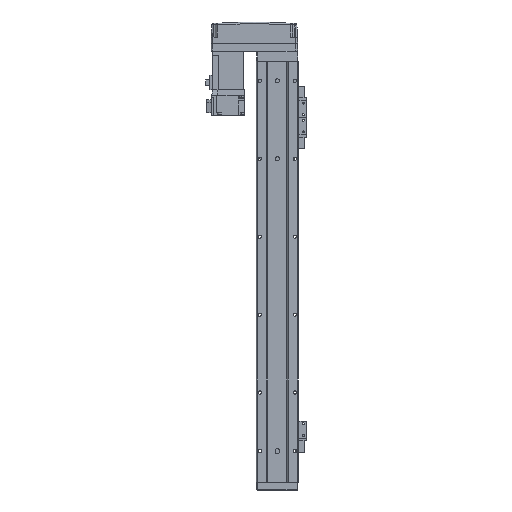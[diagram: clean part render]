
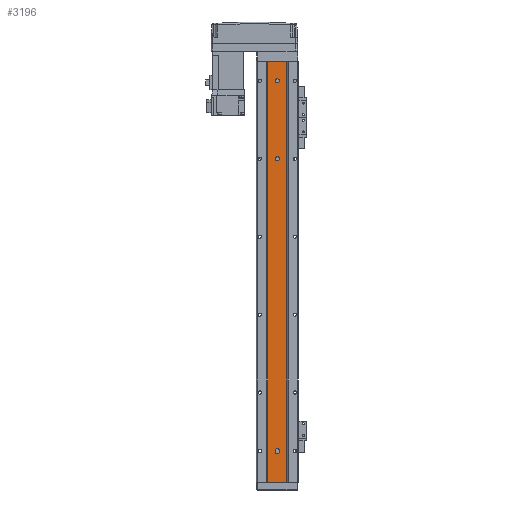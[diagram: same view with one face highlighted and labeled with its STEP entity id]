
A CAD part, front view. The second image highlights one B-rep face of the part: STEP entity #3196.
In plain terms, the highlighted planar face has unit normal (0, -1, 0).
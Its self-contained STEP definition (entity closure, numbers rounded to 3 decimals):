
#428 = AXIS2_PLACEMENT_3D ( 'NONE', #33972, #34363, #4258 ) ;
#491 = VERTEX_POINT ( 'NONE', #30914 ) ;
#550 = AXIS2_PLACEMENT_3D ( 'NONE', #24041, #12678, #36345 ) ;
#764 = EDGE_LOOP ( 'NONE', ( #18787, #20317, #24495, #34563 ) ) ;
#892 = CIRCLE ( 'NONE', #428, 2.5 ) ;
#1157 = CARTESIAN_POINT ( 'NONE',  ( 12.293, 1.5, 0. ) ) ;
#1325 = VERTEX_POINT ( 'NONE', #14824 ) ;
#1871 = EDGE_LOOP ( 'NONE', ( #24526, #31293 ) ) ;
#2247 = DIRECTION ( 'NONE',  ( 1., 0., 0. ) ) ;
#2670 = CARTESIAN_POINT ( 'NONE',  ( 12.293, 1.5, -540. ) ) ;
#2866 = ORIENTED_EDGE ( 'NONE', *, *, #19598, .F. ) ;
#2890 = DIRECTION ( 'NONE',  ( 0., -1., 0. ) ) ;
#2945 = CARTESIAN_POINT ( 'NONE',  ( -2.5, 1.5, -125. ) ) ;
#3035 = EDGE_CURVE ( 'NONE', #17900, #491, #10502, .T. ) ;
#3196 = ADVANCED_FACE ( 'NONE', ( #32804, #31886, #11847, #25737 ), #36994, .T. ) ;
#3708 = EDGE_CURVE ( 'NONE', #30126, #17900, #12268, .T. ) ;
#3852 = VECTOR ( 'NONE', #19667, 1000. ) ;
#4245 = VERTEX_POINT ( 'NONE', #14580 ) ;
#4258 = DIRECTION ( 'NONE',  ( 1., 0., 0. ) ) ;
#4738 = DIRECTION ( 'NONE',  ( 0., 0., -1. ) ) ;
#5090 = CARTESIAN_POINT ( 'NONE',  ( 12.293, 1.5, -540. ) ) ;
#5852 = CARTESIAN_POINT ( 'NONE',  ( 0., 1.5, -501. ) ) ;
#6755 = VECTOR ( 'NONE', #2247, 1000. ) ;
#8006 = CARTESIAN_POINT ( 'NONE',  ( 0., 1.5, -125. ) ) ;
#8094 = DIRECTION ( 'NONE',  ( 0., 0., 1. ) ) ;
#8851 = ORIENTED_EDGE ( 'NONE', *, *, #27658, .F. ) ;
#9755 = ORIENTED_EDGE ( 'NONE', *, *, #3708, .F. ) ;
#10427 = EDGE_CURVE ( 'NONE', #16686, #13481, #11825, .T. ) ;
#10502 = CIRCLE ( 'NONE', #550, 2.5 ) ;
#10596 = DIRECTION ( 'NONE',  ( 0., -1., 0. ) ) ;
#10859 = CARTESIAN_POINT ( 'NONE',  ( 12.293, 1.5, 0. ) ) ;
#10973 = DIRECTION ( 'NONE',  ( 0., -1., 0. ) ) ;
#11825 = CIRCLE ( 'NONE', #24557, 2.5 ) ;
#11847 = FACE_BOUND ( 'NONE', #1871, .T. ) ;
#12268 = LINE ( 'NONE', #15841, #16443 ) ;
#12393 = DIRECTION ( 'NONE',  ( 0., -1., 0. ) ) ;
#12678 = DIRECTION ( 'NONE',  ( 0., -1., 0. ) ) ;
#12788 = DIRECTION ( 'NONE',  ( 1., 0., 0. ) ) ;
#13481 = VERTEX_POINT ( 'NONE', #30425 ) ;
#13814 = DIRECTION ( 'NONE',  ( 1., 0., 0. ) ) ;
#14580 = CARTESIAN_POINT ( 'NONE',  ( -2.5, 1.5, -501. ) ) ;
#14824 = CARTESIAN_POINT ( 'NONE',  ( -12.293, 1.5, -540. ) ) ;
#14868 = AXIS2_PLACEMENT_3D ( 'NONE', #30175, #12393, #33219 ) ;
#15439 = CARTESIAN_POINT ( 'NONE',  ( -2.5, 1.5, -25. ) ) ;
#15841 = CARTESIAN_POINT ( 'NONE',  ( 2.5, 1.5, -540. ) ) ;
#16261 = VERTEX_POINT ( 'NONE', #1157 ) ;
#16355 = AXIS2_PLACEMENT_3D ( 'NONE', #8006, #10596, #22498 ) ;
#16443 = VECTOR ( 'NONE', #36432, 1000. ) ;
#16686 = VERTEX_POINT ( 'NONE', #15439 ) ;
#17615 = AXIS2_PLACEMENT_3D ( 'NONE', #5852, #2890, #23537 ) ;
#17743 = CARTESIAN_POINT ( 'NONE',  ( 2.5, 1.5, -125. ) ) ;
#17900 = VERTEX_POINT ( 'NONE', #36594 ) ;
#18468 = EDGE_CURVE ( 'NONE', #13481, #16686, #892, .T. ) ;
#18787 = ORIENTED_EDGE ( 'NONE', *, *, #29724, .F. ) ;
#18969 = EDGE_CURVE ( 'NONE', #26833, #16261, #31044, .T. ) ;
#19088 = EDGE_LOOP ( 'NONE', ( #20393, #35113, #29645, #9755 ) ) ;
#19598 = EDGE_CURVE ( 'NONE', #32638, #29197, #34224, .T. ) ;
#19667 = DIRECTION ( 'NONE',  ( 1., 0., 0. ) ) ;
#19896 = CARTESIAN_POINT ( 'NONE',  ( 12.293, 1.5, -540. ) ) ;
#20244 = CARTESIAN_POINT ( 'NONE',  ( -12.293, 1.5, -540. ) ) ;
#20317 = ORIENTED_EDGE ( 'NONE', *, *, #23097, .F. ) ;
#20393 = ORIENTED_EDGE ( 'NONE', *, *, #22041, .F. ) ;
#22041 = EDGE_CURVE ( 'NONE', #4245, #30126, #37782, .T. ) ;
#22445 = CIRCLE ( 'NONE', #14868, 2.5 ) ;
#22475 = LINE ( 'NONE', #5090, #6755 ) ;
#22498 = DIRECTION ( 'NONE',  ( 1., 0., 0. ) ) ;
#23097 = EDGE_CURVE ( 'NONE', #1325, #30403, #34382, .T. ) ;
#23537 = DIRECTION ( 'NONE',  ( 1., 0., 0. ) ) ;
#24041 = CARTESIAN_POINT ( 'NONE',  ( 0., 1.5, -499. ) ) ;
#24495 = ORIENTED_EDGE ( 'NONE', *, *, #25823, .T. ) ;
#24526 = ORIENTED_EDGE ( 'NONE', *, *, #18468, .F. ) ;
#24557 = AXIS2_PLACEMENT_3D ( 'NONE', #30702, #30832, #12788 ) ;
#25119 = CARTESIAN_POINT ( 'NONE',  ( -2.5, 1.5, -540. ) ) ;
#25737 = FACE_OUTER_BOUND ( 'NONE', #764, .T. ) ;
#25823 = EDGE_CURVE ( 'NONE', #1325, #26833, #22475, .T. ) ;
#26037 = LINE ( 'NONE', #10859, #3852 ) ;
#26821 = VECTOR ( 'NONE', #8094, 1000. ) ;
#26833 = VERTEX_POINT ( 'NONE', #2670 ) ;
#27349 = DIRECTION ( 'NONE',  ( 0., 0., 1. ) ) ;
#27658 = EDGE_CURVE ( 'NONE', #29197, #32638, #22445, .T. ) ;
#28833 = AXIS2_PLACEMENT_3D ( 'NONE', #19896, #10973, #13814 ) ;
#29197 = VERTEX_POINT ( 'NONE', #2945 ) ;
#29645 = ORIENTED_EDGE ( 'NONE', *, *, #3035, .F. ) ;
#29724 = EDGE_CURVE ( 'NONE', #30403, #16261, #26037, .T. ) ;
#30078 = VECTOR ( 'NONE', #27349, 1000. ) ;
#30126 = VERTEX_POINT ( 'NONE', #30738 ) ;
#30175 = CARTESIAN_POINT ( 'NONE',  ( 0., 1.5, -125. ) ) ;
#30403 = VERTEX_POINT ( 'NONE', #35942 ) ;
#30425 = CARTESIAN_POINT ( 'NONE',  ( 2.5, 1.5, -25. ) ) ;
#30702 = CARTESIAN_POINT ( 'NONE',  ( 0., 1.5, -25. ) ) ;
#30738 = CARTESIAN_POINT ( 'NONE',  ( 2.5, 1.5, -501. ) ) ;
#30776 = CARTESIAN_POINT ( 'NONE',  ( 12.293, 1.5, -540. ) ) ;
#30832 = DIRECTION ( 'NONE',  ( 0., -1., 0. ) ) ;
#30914 = CARTESIAN_POINT ( 'NONE',  ( -2.5, 1.5, -499. ) ) ;
#31044 = LINE ( 'NONE', #30776, #30078 ) ;
#31293 = ORIENTED_EDGE ( 'NONE', *, *, #10427, .F. ) ;
#31886 = FACE_BOUND ( 'NONE', #36516, .T. ) ;
#32638 = VERTEX_POINT ( 'NONE', #17743 ) ;
#32804 = FACE_BOUND ( 'NONE', #19088, .T. ) ;
#33219 = DIRECTION ( 'NONE',  ( 1., 0., 0. ) ) ;
#33972 = CARTESIAN_POINT ( 'NONE',  ( 0., 1.5, -25. ) ) ;
#34224 = CIRCLE ( 'NONE', #16355, 2.5 ) ;
#34363 = DIRECTION ( 'NONE',  ( 0., -1., 0. ) ) ;
#34382 = LINE ( 'NONE', #20244, #26821 ) ;
#34563 = ORIENTED_EDGE ( 'NONE', *, *, #18969, .T. ) ;
#34622 = VECTOR ( 'NONE', #4738, 1000. ) ;
#35113 = ORIENTED_EDGE ( 'NONE', *, *, #37856, .F. ) ;
#35547 = LINE ( 'NONE', #25119, #34622 ) ;
#35942 = CARTESIAN_POINT ( 'NONE',  ( -12.293, 1.5, 0. ) ) ;
#36345 = DIRECTION ( 'NONE',  ( 1., 0., 0. ) ) ;
#36432 = DIRECTION ( 'NONE',  ( 0., 0., 1. ) ) ;
#36516 = EDGE_LOOP ( 'NONE', ( #2866, #8851 ) ) ;
#36594 = CARTESIAN_POINT ( 'NONE',  ( 2.5, 1.5, -499. ) ) ;
#36994 = PLANE ( 'NONE',  #28833 ) ;
#37782 = CIRCLE ( 'NONE', #17615, 2.5 ) ;
#37856 = EDGE_CURVE ( 'NONE', #491, #4245, #35547, .T. ) ;
